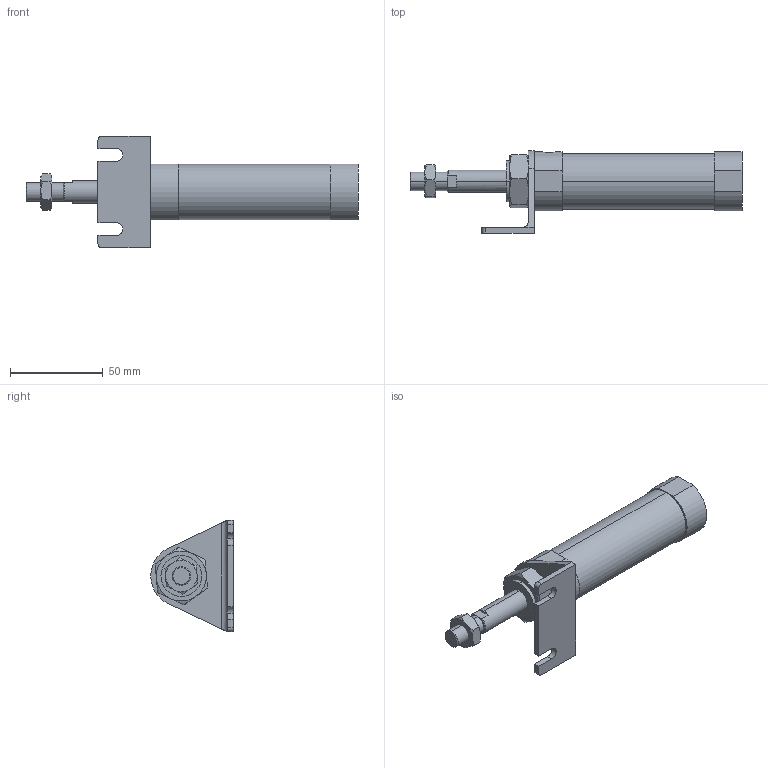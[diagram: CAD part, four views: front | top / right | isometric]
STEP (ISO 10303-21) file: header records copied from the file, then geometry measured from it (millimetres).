
FILE_DESCRIPTION (( 'STEP AP203' ), '1' );
FILE_NAME ('JGND0-25-25-L.STEP', '2016-08-04T02:09:01', ( '' ), ( '' ), 'SwSTEP 2.0', 'SolidWorks 2014', '' );
FILE_SCHEMA (( 'CONFIG_CONTROL_DESIGN' ));
Length unit declared in the file: millimetre
Products named in the file (5): JGND0-25-25-L; J#0-25-25(P); J#2-25-L
Assembly tree (4 placements, depth 2):
  JGND0-25-25-L
    J#0-25-25(P)
    (unnamed)
    (unnamed)
    J#2-25-L
Bounding box: 179 x 44.5 x 60 mm (x, y, z)
Volume: 104305.7 mm3; surface area: 25458 mm2
Topology: 4 solids, 4 shells, 111 faces, 258 edges, 157 vertices
Faces by surface type: plane 50, cylinder 31, torus 24, cone 6
Entity records: 3913 total; most frequent: CARTESIAN_POINT 911, DIRECTION 526, ORIENTED_EDGE 512, EDGE_CURVE 256, AXIS2_PLACEMENT_3D 208, VERTEX_POINT 157, EDGE_LOOP 121, ADVANCED_FACE 111
